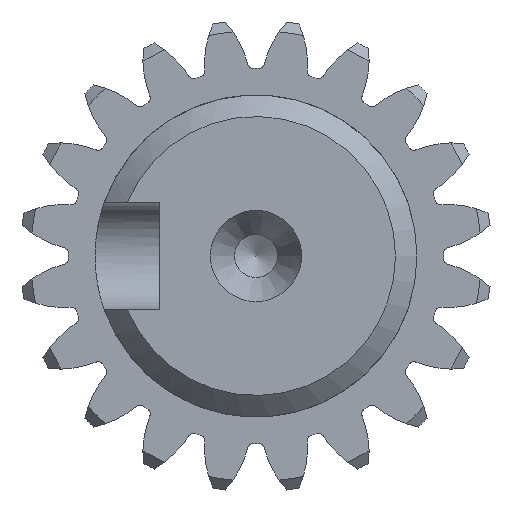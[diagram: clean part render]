
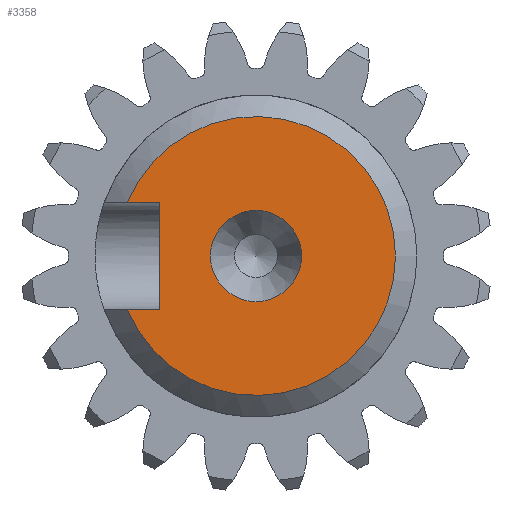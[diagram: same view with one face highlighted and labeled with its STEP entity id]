
A CAD part, left-side view. The second image highlights one B-rep face of the part: STEP entity #3358.
In plain terms, the highlighted planar face has unit normal (-1, 0, 0).
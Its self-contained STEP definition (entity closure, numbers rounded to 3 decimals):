
#19=FACE_BOUND('',#514,.T.);
#26=PLANE('',#3854);
#327=FACE_OUTER_BOUND('',#513,.T.);
#513=EDGE_LOOP('',(#2745,#2746,#2747,#2748));
#514=EDGE_LOOP('',(#2749));
#662=LINE('',#6245,#803);
#663=LINE('',#6247,#804);
#664=LINE('',#6248,#805);
#803=VECTOR('',#4921,10.);
#804=VECTOR('',#4922,10.);
#805=VECTOR('',#4923,10.);
#1109=CIRCLE('',#3853,6.5);
#1110=CIRCLE('',#3855,2.125);
#1451=VERTEX_POINT('',#6229);
#1455=VERTEX_POINT('',#6238);
#1456=VERTEX_POINT('',#6244);
#1457=VERTEX_POINT('',#6246);
#1458=VERTEX_POINT('',#6249);
#1970=EDGE_CURVE('',#1455,#1451,#1109,.T.);
#1971=EDGE_CURVE('',#1455,#1456,#662,.T.);
#1972=EDGE_CURVE('',#1456,#1457,#663,.T.);
#1973=EDGE_CURVE('',#1457,#1451,#664,.T.);
#1974=EDGE_CURVE('',#1458,#1458,#1110,.T.);
#2745=ORIENTED_EDGE('',*,*,#1970,.F.);
#2746=ORIENTED_EDGE('',*,*,#1971,.T.);
#2747=ORIENTED_EDGE('',*,*,#1972,.T.);
#2748=ORIENTED_EDGE('',*,*,#1973,.T.);
#2749=ORIENTED_EDGE('',*,*,#1974,.T.);
#3358=ADVANCED_FACE('',(#327,#19),#26,.T.);
#3853=AXIS2_PLACEMENT_3D('',#6242,#4917,#4918);
#3854=AXIS2_PLACEMENT_3D('',#6243,#4919,#4920);
#3855=AXIS2_PLACEMENT_3D('',#6250,#4924,#4925);
#4917=DIRECTION('center_axis',(1.,0.,0.));
#4918=DIRECTION('ref_axis',(0.,-1.,0.));
#4919=DIRECTION('center_axis',(-1.,0.,0.));
#4920=DIRECTION('ref_axis',(0.,0.,1.));
#4921=DIRECTION('',(0.,-1.,0.));
#4922=DIRECTION('',(0.,0.,-1.));
#4923=DIRECTION('',(0.,1.,0.));
#4924=DIRECTION('center_axis',(1.,0.,0.));
#4925=DIRECTION('ref_axis',(0.,0.,-1.));
#6229=CARTESIAN_POINT('',(0.,6.,-2.5));
#6238=CARTESIAN_POINT('',(0.,6.,2.5));
#6242=CARTESIAN_POINT('Origin',(0.,0.,0.));
#6243=CARTESIAN_POINT('Origin',(0.,7.5,0.));
#6244=CARTESIAN_POINT('',(0.,4.5,2.5));
#6245=CARTESIAN_POINT('',(0.,6.75,2.5));
#6246=CARTESIAN_POINT('',(0.,4.5,-2.5));
#6247=CARTESIAN_POINT('',(0.,4.5,0.));
#6248=CARTESIAN_POINT('',(0.,6.75,-2.5));
#6249=CARTESIAN_POINT('',(0.,-2.125,0.));
#6250=CARTESIAN_POINT('Origin',(0.,0.,0.));
